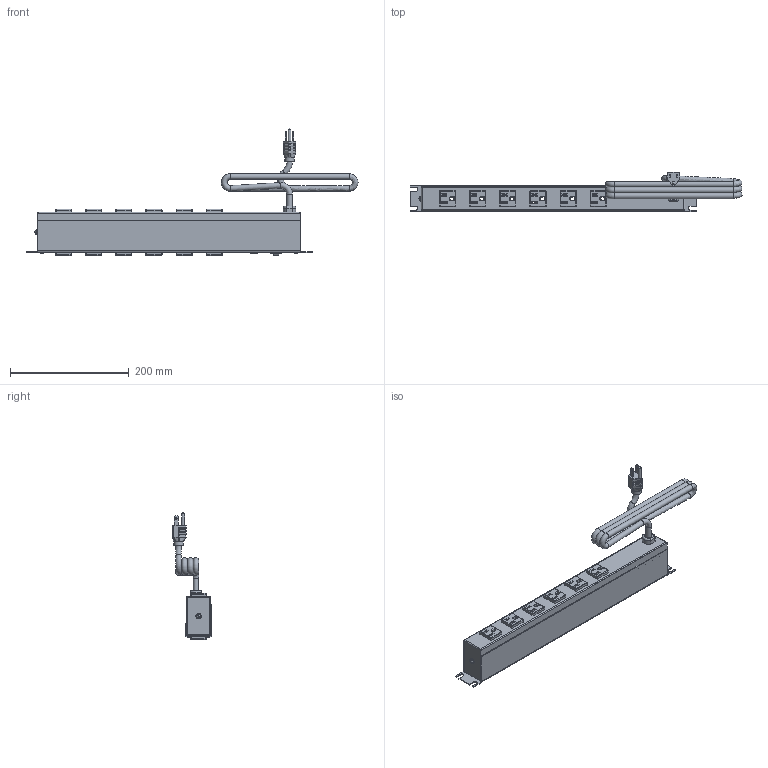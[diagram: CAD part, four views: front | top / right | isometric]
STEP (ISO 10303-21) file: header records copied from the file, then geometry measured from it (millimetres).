
FILE_DESCRIPTION((''),'2;1');
FILE_NAME('E:\Dutton\Manufacturing\drawings\Updated 2009\POWER BARS\1583 X series\STEP''s\1583T12A1BKX.stp','2010-01-08T10:18:15',('tfoster'),(''),'Autodesk Inventor 2010','Autodesk Inventor 2010','');
FILE_SCHEMA(('AUTOMOTIVE_DESIGN { 1 0 10303 214 1 1 1 1 }'));
Products named in the file (10): 1583T12A1BKX; 1583H12 Front plate; 1583H12 Back Plate; #6 - 0.375 Type A screw; toothwasher; round head 1-way 8-32 x 0.5 screw; Reset Switch; Cored 2; Receptacle; Pilot light
Assembly tree (23 placements, depth 2):
  1583T12A1BKX
    1583H12 Front plate
    1583H12 Back Plate
    #6 - 0.375 Type A screw  x4
    toothwasher
    round head 1-way 8-32 x 0.5 screw
    Reset Switch
    Cored 2
    Receptacle  x12
    Pilot light
Bounding box: 560.01 x 66.07 x 214.29 mm (x, y, z)
Volume: 427642.9 mm3; surface area: 324885.8 mm2
Topology: 23 solids, 23 shells, 1216 faces, 3404 edges, 2221 vertices
Faces by surface type: plane 819, cylinder 218, bspline 81, sphere 54, cone 29, torus 15
Full cylindrical faces by diameter (mm): 1.803 x3, 1.905 x2, 2.997 x4, 3 x2, 4.3 x1, 4.775 x1, 4.801 x1, 5.563 x4, 7.849 x1, 9.5 x5, 11 x1, 15.621 x1, 19.05 x1
Entity records: 23237 total; most frequent: CARTESIAN_POINT 7840, ORIENTED_EDGE 3328, DIRECTION 2779, EDGE_CURVE 1664, VERTEX_POINT 1167, VECTOR 1103, LINE 1103, AXIS2_PLACEMENT_3D 838
